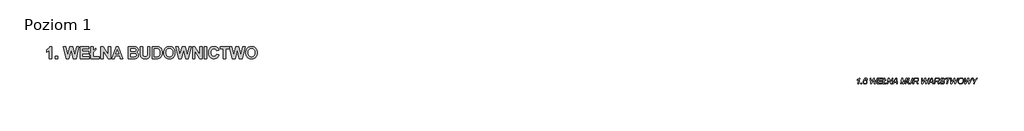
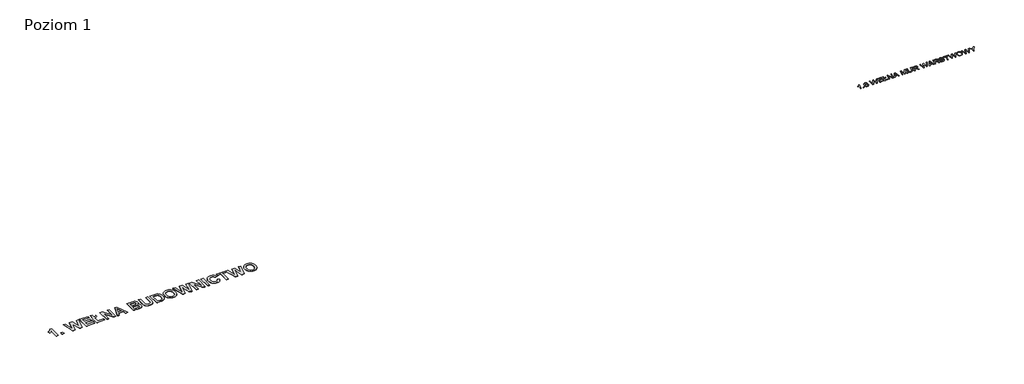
# One storey, incomplete: 2 proxies.
"""IFC4 building model written with IfcOpenShell, lengths in millimetres."""

import ifcopenshell
import ifcopenshell.guid

model = None  # the IFC model being written
_history = None  # IfcOwnerHistory: only IFC2X3 demands one
_inside = {}  # id of a spatial element -> (the spatial element, [elements in it])
_under = {}  # id of a project, library or spatial element -> (it, [spatial elements below it])
_declared = {}  # id of a project -> (the project, [libraries it declares])
_typed = {}  # id of a type object -> (the type object, [elements of that type])
_made_of = {}  # id of a material, layer set ... -> (it, [elements and type objects made of it])


def new_model(schema):
    """Start an empty IFC model of exactly this schema.

    Asked for "IFC4X3", IfcOpenShell would pick the latest addendum, in which some entities
    have other attributes; the version numbers below select the first issue.
    IFC2X3 requires an IfcOwnerHistory on every rooted entity: one is made here for all.
    """
    global model, _history
    if schema == "IFC4X3":
        model = ifcopenshell.file(schema_version=(4, 3, 0, 0))
    else:
        model = ifcopenshell.file(schema=schema)
    _inside.clear()
    _under.clear()
    _declared.clear()
    _typed.clear()
    _made_of.clear()
    _history = None
    if model.schema == "IFC2X3":
        org = make("IfcOrganization", Name="unknown")
        user = make(
            "IfcPersonAndOrganization",
            ThePerson=make("IfcPerson", FamilyName="unknown"),
            TheOrganization=org,
        )
        app = make(
            "IfcApplication",
            ApplicationDeveloper=org,
            Version="unknown",
            ApplicationFullName="unknown",
            ApplicationIdentifier="unknown",
        )
        _history = make(
            "IfcOwnerHistory",
            OwningUser=user,
            OwningApplication=app,
            ChangeAction="ADDED",
            CreationDate=0,
        )
    return model


def make(cls, **values):
    """One entity of the class cls with the attributes given. An attribute that is None is left unset."""
    return model.create_entity(
        cls, **{name: value for name, value in values.items() if value is not None}
    )


def rooted(cls, **values):
    """An entity with a GlobalId (a new one), such as an element, a storey or a relation."""
    return make(cls, GlobalId=ifcopenshell.guid.new(), OwnerHistory=_history, **values)


def si_unit(unit_type, name, prefix=None):
    """IfcSIUnit, for example si_unit("LENGTHUNIT", "METRE", prefix="MILLI")."""
    return make("IfcSIUnit", UnitType=unit_type, Prefix=prefix, Name=name)


def assignment(units):
    """IfcUnitAssignment: the units of a project."""
    return None if units is None else make("IfcUnitAssignment", Units=units)


def point(xyz):
    """IfcCartesianPoint."""
    return None if xyz is None else make("IfcCartesianPoint", Coordinates=xyz)


def direction(xyz):
    """IfcDirection."""
    return None if xyz is None else make("IfcDirection", DirectionRatios=xyz)


def frame(location, z_axis=None, x_axis=None):
    """IfcAxis2Placement3D, a coordinate frame: its origin and axes. An axis left out is left unset."""
    return make(
        "IfcAxis2Placement3D",
        Location=point(location),
        Axis=direction(z_axis),
        RefDirection=direction(x_axis),
    )


def origin():
    """The frame at (0, 0, 0) with its axes left unset."""
    return frame((0.0, 0.0, 0.0))


def origin_with_axes():
    """The frame at (0, 0, 0) with the z axis (0, 0, 1) and the x axis (1, 0, 0) written out."""
    return frame((0.0, 0.0, 0.0), z_axis=(0.0, 0.0, 1.0), x_axis=(1.0, 0.0, 0.0))


def place(relative_to, where):
    """IfcLocalPlacement: puts the frame where relative to a parent placement (None: the world)."""
    return make(
        "IfcLocalPlacement", PlacementRelTo=relative_to, RelativePlacement=where
    )


def context(
    kind, dimensions, precision=None, world=None, true_north=None, identifier=None
):
    """IfcGeometricRepresentationContext, for example the 3D "Model" context."""
    return make(
        "IfcGeometricRepresentationContext",
        ContextIdentifier=identifier,
        ContextType=kind,
        CoordinateSpaceDimension=dimensions,
        Precision=precision,
        WorldCoordinateSystem=world,
        TrueNorth=true_north,
    )


def project(units=None, contexts=None):
    """IfcProject with its units and contexts."""
    return rooted(
        "IfcProject",
        Name="project",
        RepresentationContexts=contexts,
        UnitsInContext=assignment(units),
    )


def spatial(cls, under=None, at=None, **own):
    """A site, building, storey or space (cls), placed at a placement, below another one or the project."""
    s = rooted(cls, ObjectPlacement=at, **own)
    if under is not None:
        _under.setdefault(under.id(), (under, []))[1].append(s)
    return s


def polyline(points):
    """IfcPolyline through the points."""
    return make("IfcPolyline", Points=[point(p) for p in points])


def outline(outer, holes=None, kind="AREA"):
    """IfcArbitraryClosedProfileDef: a profile drawn as a closed curve; with holes, ...WithVoids."""
    if holes is None:
        return make("IfcArbitraryClosedProfileDef", ProfileType=kind, OuterCurve=outer)
    return make(
        "IfcArbitraryProfileDefWithVoids",
        ProfileType=kind,
        OuterCurve=outer,
        InnerCurves=holes,
    )


def extrude(swept, where, along, depth):
    """IfcExtrudedAreaSolid: the profile swept, set in the frame where, extruded along a direction by depth."""
    return make(
        "IfcExtrudedAreaSolid",
        SweptArea=swept,
        Position=where,
        ExtrudedDirection=direction(along),
        Depth=depth,
    )


def shape(context_of_items, identifier, shape_type, items):
    """IfcShapeRepresentation: the items that make up one representation, for example the "Body"."""
    return make(
        "IfcShapeRepresentation",
        ContextOfItems=context_of_items,
        RepresentationIdentifier=identifier,
        RepresentationType=shape_type,
        Items=items,
    )


def made_of(thing, what):
    """Note that an element or type object is made of a material, layer set ...; save() writes the relation."""
    if what is not None:
        _made_of.setdefault(what.id(), (what, []))[1].append(thing)
    return thing


def element(
    cls,
    number,
    at=None,
    inside=None,
    cuts=None,
    type_object=None,
    material=None,
    context=None,
    identifier="Body",
    shape_type=None,
    held_by="IfcProductDefinitionShape",
    body=None,
    shapes=None,
    **own,
):
    """One element of the class cls, such as IfcWall. Its Tag is "e" and its number.

    at: its placement. inside: the storey or other place that contains it. cuts: it is an
    opening in that element (IfcRelVoidsElement). A single representation is given by context,
    identifier, shape_type and body (its items); several are given by shapes. held_by: the class
    of the entity that holds the representations. save() writes the other relations.
    """
    e = rooted(cls, Tag="e%d" % number, ObjectPlacement=at, **own)
    if body is not None:
        shapes = [shape(context, identifier, shape_type, body)]
    if shapes is not None:
        e.Representation = make(held_by, Representations=shapes)
    if inside is not None:
        _inside.setdefault(inside.id(), (inside, []))[1].append(e)
    if cuts is not None:
        rooted(
            "IfcRelVoidsElement", RelatingBuildingElement=cuts, RelatedOpeningElement=e
        )
    if type_object is not None:
        _typed.setdefault(type_object.id(), (type_object, []))[1].append(e)
    return made_of(e, material)


def aggregate(whole, parts):
    """IfcRelAggregates: a whole, such as a stair, and the parts it consists of."""
    return rooted("IfcRelAggregates", RelatingObject=whole, RelatedObjects=parts)


def save(model, path):
    """Write the relations noted so far, then the file.

    IfcRelAggregates (storeys below a building ...), IfcRelContainedInSpatialStructure (elements
    in a storey), IfcRelDefinesByType, IfcRelAssociatesMaterial and IfcRelDeclares: one each for
    every whole, place, type object, material and project.
    """
    for whole, parts in _under.values():
        aggregate(whole, parts)
    for where, things in _inside.values():
        rooted(
            "IfcRelContainedInSpatialStructure",
            RelatedElements=things,
            RelatingStructure=where,
        )
    for kind, things in _typed.values():
        rooted("IfcRelDefinesByType", RelatedObjects=things, RelatingType=kind)
    for what, things in _made_of.values():
        rooted("IfcRelAssociatesMaterial", RelatedObjects=things, RelatingMaterial=what)
    for by, libraries in _declared.values():
        rooted("IfcRelDeclares", RelatingContext=by, RelatedDefinitions=libraries)
    model.write(path)


model = new_model("IFC4")

# Units and contexts
model_context = context("Model", 3, world=origin())
ifc_project = project(units=[si_unit("LENGTHUNIT", "METRE", prefix="MILLI")], contexts=[model_context])

# Site, building, storey
site = spatial("IfcSite", under=ifc_project)
building = spatial("IfcBuilding", under=site)
storey = spatial("IfcBuildingStorey", under=building, Name="Poziom 1", Elevation=0.0)

# Proxies
placement = place(None, origin())
element("IfcBuildingElementProxy", 1, Name="400 mm Arial", ObjectType="400 mm Arial", at=placement, inside=storey, context=model_context, shape_type="SweptSolid", body=[
    extrude(outline(polyline([(38888.1068831, 15251.1796723), (38949.3190043, 15546.3368692), (38927.350787, 15531.4283702), (38901.3296577, 15518.0740851), (38837.1286634, 15496.0281571), (38846.1191937, 15538.8766419), (38881.8302496, 15555.5067319), (38917.0391748, 15576.5125321), (38969.9780952, 15617.0177404), (38990.7328301, 15642.937248), (39019.330368, 15642.937248), (38937.9373755, 15251.1796723), (38888.1068831, 15251.1796723)])), origin_with_axes(), (0.0, 0.0, 1.0), 5.0),
    extrude(outline(polyline([(39084.7508225, 15251.1796723), (39096.2280952, 15300.1493692), (39145.1977922, 15300.1493692), (39134.6769589, 15251.1796723), (39084.7508225, 15251.1796723)])), origin_with_axes(), (0.0, 0.0, 1.0), 5.0),
    extrude(outline(polyline([(39314.9657846, 15471.8302404), (39335.4814096, 15490.4808086), (39355.9013907, 15503.7753162), (39376.1779058, 15511.7376741), (39396.2631331, 15514.3917935), (39417.8129082, 15512.4759258), (39437.413938, 15506.7283228), (39455.0662226, 15497.1489845), (39470.7697619, 15483.7379109), (39483.6577827, 15467.0809211), (39492.8635119, 15447.7638342), (39498.3869494, 15425.7866502), (39500.2280952, 15401.1493692), (39497.4843097, 15368.8217177), (39489.2529532, 15338.8851647), (39475.5340256, 15311.3397101), (39456.327527, 15286.1853541), (39436.3738102, 15268.192338), (39414.3876596, 15255.3401836), (39390.3690753, 15247.628891), (39364.3180573, 15245.0584601), (39340.7119376, 15247.276204), (39319.150207, 15253.9294355), (39299.6328656, 15265.0181547), (39282.1599134, 15280.5423616), (39267.7655005, 15300.1673025), (39257.483777, 15323.5582234), (39251.314743, 15350.7151244), (39249.2583983, 15381.6380056), (39254.5427259, 15441.3676457), (39270.3957089, 15503.1058086), (39288.6637013, 15546.9944213), (39310.7574513, 15582.4424563), (39335.5172761, 15609.5216467), (39361.783493, 15628.3037253), (39390.5364522, 15639.2788673), (39422.7565043, 15642.937248), (39442.1931461, 15641.3531453), (39459.7587534, 15636.600837), (39475.4533261, 15628.6803233), (39489.2768642, 15617.5916041), (39500.775059, 15603.5498782), (39509.4936019, 15586.7703446), (39515.4324927, 15567.2530032), (39518.5917316, 15544.9978541), (39473.9260119, 15544.9978541), (39467.4102685, 15567.3187584), (39455.5145536, 15582.4424563), (39439.3387723, 15591.0862774), (39419.9828301, 15593.967551), (39397.8173471, 15589.8787726), (39375.5083983, 15577.6124374), (39354.7058414, 15557.3239668), (39337.0595346, 15529.1687821), (39323.5020062, 15498.7898758), (39314.9657846, 15471.8302404)]), holes=[polyline([(39298.2280952, 15364.5177404), (39303.3330905, 15337.0559743), (39318.6480763, 15314.3524942), (39340.395117, 15299.1092414), (39364.796277, 15294.0281571), (39383.3870678, 15297.1246296), (39403.0060308, 15306.4140473), (39421.6207325, 15322.0279204), (39437.1987392, 15344.0977594), (39447.7434835, 15369.3358039), (39451.2583983, 15394.4542935), (39446.3805573, 15423.4702736), (39431.7470346, 15446.0541988), (39410.2271483, 15460.5801221), (39384.6902164, 15465.4220965), (39369.0494435, 15463.6556725), (39353.9765564, 15458.3564005), (39325.5344399, 15437.1593124), (39313.5879141, 15422.0206701), (39305.0546814, 15404.8675274), (39299.9347418, 15385.6998841), (39298.2280952, 15364.5177404)])]), origin_with_axes(), (0.0, 0.0, 1.0), 5.0),
    extrude(outline(polyline([(39745.0765801, 15251.1796723), (39720.5917316, 15642.937248), (39769.5614286, 15642.937248), (39780.7517695, 15447.8236116), (39785.0557467, 15372.9344071), (39786.3947619, 15348.9277783), (39790.985671, 15318.5130056), (39836.4165422, 15418.0783465), (39951.1892695, 15642.937248), (40008.2887013, 15642.937248), (40025.6002543, 15413.2961495), (40035.8341558, 15318.5130056), (40051.328474, 15356.1010738), (40081.9345346, 15417.1219071), (40195.5595346, 15642.937248), (40250.0765801, 15642.937248), (40046.1637013, 15251.1796723), (39989.9250649, 15251.1796723), (39971.3701407, 15487.5158465), (39962.3796104, 15563.3614904), (39936.4601028, 15506.3577026), (39806.0017695, 15251.1796723), (39745.0765801, 15251.1796723)])), origin_with_axes(), (0.0, 0.0, 1.0), 5.0),
    extrude(outline(polyline([(40204.1674892, 15251.1796723), (40283.7432467, 15642.937248), (40559.1977922, 15642.937248), (40552.9809361, 15600.0887632), (40324.7744967, 15600.0887632), (40299.9070725, 15477.6645207), (40522.4705195, 15477.6645207), (40510.2280952, 15434.8160359), (40291.203474, 15434.8160359), (40262.6059361, 15294.0281571), (40508.1239286, 15294.0281571), (40498.9421104, 15251.1796723), (40204.1674892, 15251.1796723)])), origin_with_axes(), (0.0, 0.0, 1.0), 5.0),
    extrude(outline(polyline([(40598.3161634, 15413.7743692), (40546.955368, 15385.8463389), (40559.1977922, 15428.6948238), (40606.6371861, 15454.5186874), (40644.8947619, 15642.937248), (40694.6296104, 15642.937248), (40662.4932467, 15484.7421723), (40773.4402164, 15544.9978541), (40761.1977922, 15502.1493692), (40654.267868, 15444.093498), (40623.7574513, 15294.0281571), (40828.5311255, 15294.0281571), (40816.2887013, 15251.1796723), (40565.3190043, 15251.1796723), (40598.3161634, 15413.7743692)])), origin_with_axes(), (0.0, 0.0, 1.0), 5.0),
    extrude(outline(polyline([(40865.2583983, 15251.1796723), (40944.8341558, 15642.937248), (41012.1674892, 15642.937248), (41071.4667316, 15491.3416041), (41114.5065043, 15374.5603541), (41135.6438149, 15300.1493692), (41157.2593452, 15411.2876268), (41202.3076407, 15642.937248), (41251.9468452, 15642.937248), (41175.8142695, 15251.1796723), (41103.5074513, 15251.1796723), (41022.4970346, 15476.2298616), (40982.9960877, 15585.7421723), (40963.3890801, 15489.0461495), (40914.9932467, 15251.1796723), (40865.2583983, 15251.1796723)])), origin_with_axes(), (0.0, 0.0, 1.0), 5.0),
    extrude(outline(polyline([(41224.2101028, 15251.1796723), (41443.4260119, 15642.937248), (41505.4032846, 15642.937248), (41567.0936255, 15251.1796723), (41517.6457089, 15251.1796723), (41501.9601028, 15361.3614904), (41338.8871861, 15361.3614904), (41279.109724, 15251.1796723), (41224.2101028, 15251.1796723)]), holes=[polyline([(41364.2328301, 15404.2099753), (41495.9345346, 15404.2099753), (41482.1618073, 15502.1493692), (41468.1977922, 15600.0887632), (41425.0623755, 15520.5130056), (41364.2328301, 15404.2099753)])]), origin_with_axes(), (0.0, 0.0, 1.0), 5.0),
    extrude(outline(polyline([(41776.6494967, 15251.1796723), (41853.0690043, 15642.937248), (41936.5661634, 15642.937248), (41966.2157846, 15389.6720965), (41973.0065043, 15325.4950132), (42012.890027, 15403.5404677), (42145.3568831, 15642.937248), (42222.828474, 15642.937248), (42139.7138907, 15251.1796723), (42089.5008225, 15251.1796723), (42135.5055573, 15439.406945), (42150.6890327, 15511.4268313), (42176.3455195, 15593.967551), (42149.0391748, 15551.477731), (42125.6542316, 15507.9836495), (41983.4316937, 15251.1796723), (41933.2186255, 15251.1796723), (41903.8559361, 15502.3406571), (41893.1438149, 15593.967551), (41874.7801786, 15499.5669829), (41826.2887013, 15251.1796723), (41776.6494967, 15251.1796723)])), origin_with_axes(), (0.0, 0.0, 1.0), 5.0),
    extrude(outline(polyline([(42304.1258225, 15642.937248), (42353.765027, 15642.937248), (42304.2214664, 15401.7232329), (42298.1958983, 15357.248801), (42299.7710344, 15342.3761685), (42304.4964428, 15329.0338389), (42312.3721234, 15317.2218124), (42323.3980763, 15306.9400889), (42351.8401928, 15292.665231), (42386.7621861, 15287.906945), (42416.0292316, 15291.3262158), (42443.1921104, 15301.5840283), (42466.5770536, 15318.4771391), (42484.5102922, 15341.8023048), (42498.952527, 15376.2460785), (42511.8644589, 15426.4950132), (42561.2167316, 15642.937248), (42611.2385119, 15642.937248), (42558.8256331, 15412.8179298), (42545.0050839, 15360.4648285), (42527.454421, 15320.2824185), (42504.2846767, 15289.5687584), (42473.6068831, 15265.6219071), (42436.3774797, 15250.1993219), (42393.5529058, 15245.0584601), (42351.1826407, 15248.6929298), (42314.9335877, 15259.5963389), (42285.905652, 15276.8959365), (42265.1987392, 15299.7189715), (42252.788938, 15327.0372717), (42248.6523377, 15357.8226647), (42259.5557467, 15428.7904677), (42304.1258225, 15642.937248)])), origin_with_axes(), (0.0, 0.0, 1.0), 5.0),
    extrude(outline(polyline([(42615.9250649, 15251.1796723), (42695.5008225, 15642.937248), (42860.9648377, 15642.937248), (42904.0165659, 15640.8569923), (42935.2323566, 15634.6162253), (42957.8043263, 15622.6368219), (42974.9245914, 15603.3406571), (42985.7204011, 15577.3972385), (42989.3190043, 15545.4760738), (42987.3822145, 15522.0791751), (42981.5718452, 15500.7625321), (42971.8878964, 15481.5261448), (42958.330368, 15464.3700132), (42940.450929, 15449.6707352), (42917.8012486, 15437.804909), (42890.3813268, 15428.7725345), (42858.1911634, 15422.5736116), (42876.9134645, 15408.2509317), (42890.423171, 15394.1673616), (42909.5758698, 15358.946481), (42924.5680573, 15322.530051), (42958.6172998, 15251.1796723), (42905.1523377, 15251.1796723), (42870.9118073, 15322.9126268), (42855.7761539, 15359.3051457), (42838.6797998, 15390.437248), (42825.0864049, 15406.8282281), (42810.8952354, 15416.4045776), (42791.8979579, 15421.0313531), (42763.8862392, 15422.5736116), (42700.4743073, 15422.5736116), (42665.6599134, 15251.1796723), (42615.9250649, 15251.1796723)]), holes=[polyline([(42709.1779058, 15465.4220965), (42784.2583983, 15465.4220965), (42852.0699513, 15465.4220965), (42879.0295867, 15470.3955813), (42900.6092505, 15479.1948238), (42917.3828064, 15491.7600463), (42929.924118, 15508.0314715), (42937.74301, 15526.8374611), (42940.3493073, 15547.0063768), (42938.3646956, 15563.4690899), (42932.4108604, 15577.6602594), (42923.2290422, 15588.6234459), (42911.5604816, 15595.4022101), (42894.1293736, 15598.9171249), (42867.6599134, 15600.0887632), (42736.5320725, 15600.0887632), (42709.1779058, 15465.4220965)])]), origin_with_axes(), (0.0, 0.0, 1.0), 5.0),
    extrude(outline(polyline([(43221.9250649, 15251.1796723), (43197.4402164, 15642.937248), (43246.4099134, 15642.937248), (43257.6002543, 15447.8236116), (43261.9042316, 15372.9344071), (43263.2432467, 15348.9277783), (43267.8341558, 15318.5130056), (43313.265027, 15418.0783465), (43428.0377543, 15642.937248), (43485.1371861, 15642.937248), (43502.4487392, 15413.2961495), (43512.6826407, 15318.5130056), (43528.1769589, 15356.1010738), (43558.7830195, 15417.1219071), (43672.4080195, 15642.937248), (43726.9250649, 15642.937248), (43523.0121861, 15251.1796723), (43466.7735498, 15251.1796723), (43448.2186255, 15487.5158465), (43439.2280952, 15563.3614904), (43413.3085877, 15506.3577026), (43282.8502543, 15251.1796723), (43221.9250649, 15251.1796723)])), origin_with_axes(), (0.0, 0.0, 1.0), 5.0),
    extrude(outline(polyline([(43648.2101028, 15251.1796723), (43867.4260119, 15642.937248), (43929.4032846, 15642.937248), (43991.0936255, 15251.1796723), (43941.6457089, 15251.1796723), (43925.9601028, 15361.3614904), (43762.8871861, 15361.3614904), (43703.109724, 15251.1796723), (43648.2101028, 15251.1796723)]), holes=[polyline([(43788.2328301, 15404.2099753), (43919.9345346, 15404.2099753), (43906.1618073, 15502.1493692), (43892.1977922, 15600.0887632), (43849.0623755, 15520.5130056), (43788.2328301, 15404.2099753)])]), origin_with_axes(), (0.0, 0.0, 1.0), 5.0),
    extrude(outline(polyline([(44042.1674892, 15251.1796723), (44121.7432467, 15642.937248), (44287.2072619, 15642.937248), (44330.2589901, 15640.8569923), (44361.4747808, 15634.6162253), (44384.0467505, 15622.6368219), (44401.1670157, 15603.3406571), (44411.9628253, 15577.3972385), (44415.5614286, 15545.4760738), (44413.6246388, 15522.0791751), (44407.8142695, 15500.7625321), (44398.1303206, 15481.5261448), (44384.5727922, 15464.3700132), (44366.6933533, 15449.6707352), (44344.0436729, 15437.804909), (44316.623751, 15428.7725345), (44284.4335877, 15422.5736116), (44303.1558888, 15408.2509317), (44316.6655952, 15394.1673616), (44335.8182941, 15358.946481), (44350.8104816, 15322.530051), (44384.859724, 15251.1796723), (44331.3947619, 15251.1796723), (44297.1542316, 15322.9126268), (44282.0185782, 15359.3051457), (44264.922224, 15390.437248), (44251.3288291, 15406.8282281), (44237.1376596, 15416.4045776), (44218.1403822, 15421.0313531), (44190.1286634, 15422.5736116), (44126.7167316, 15422.5736116), (44091.9023377, 15251.1796723), (44042.1674892, 15251.1796723)]), holes=[polyline([(44135.4203301, 15465.4220965), (44210.5008225, 15465.4220965), (44278.3123755, 15465.4220965), (44305.2720109, 15470.3955813), (44326.8516748, 15479.1948238), (44343.6252306, 15491.7600463), (44356.1665422, 15508.0314715), (44363.9854342, 15526.8374611), (44366.5917316, 15547.0063768), (44364.6071198, 15563.4690899), (44358.6532846, 15577.6602594), (44349.4714664, 15588.6234459), (44337.8029058, 15595.4022101), (44320.3717979, 15598.9171249), (44293.9023377, 15600.0887632), (44162.7744967, 15600.0887632), (44135.4203301, 15465.4220965)])]), origin_with_axes(), (0.0, 0.0, 1.0), 5.0),
    extrude(outline(polyline([(44452.2887013, 15379.7251268), (44501.2583983, 15385.8463389), (44500.6845346, 15371.6910359), (44503.266921, 15349.2386211), (44511.0140801, 15328.7469071), (44524.7150744, 15311.4473096), (44545.1589664, 15298.5712442), (44571.1980289, 15290.5730198), (44601.6845346, 15287.906945), (44642.7277401, 15293.0717177), (44659.0977981, 15299.5276836), (44672.7001596, 15308.5660359), (44691.0279295, 15330.6836969), (44697.1371861, 15355.718498), (44693.9331142, 15373.3887158), (44684.3208983, 15389.4808086), (44660.0273377, 15407.0792935), (44613.1618073, 15430.0338389), (44551.5671104, 15460.6398995), (44529.1386066, 15478.7166041), (44513.5008225, 15498.3236116), (44504.3190043, 15520.1543408), (44501.2583983, 15544.9022101), (44505.2395772, 15573.499748), (44517.1831142, 15599.2279677), (44536.7901217, 15620.6402546), (44563.7617127, 15636.2899942), (44596.3882515, 15645.8663437), (44632.9601028, 15649.0584601), (44675.3542789, 15644.9577262), (44710.5273377, 15632.6555245), (44737.7619494, 15613.5147812), (44756.3407846, 15588.8984223), (44767.0289948, 15562.1659412), (44770.5917316, 15536.6768313), (44770.5917316, 15528.4514526), (44721.6220346, 15524.3387632), (44718.8483604, 15551.405998), (44712.284795, 15567.1752925), (44702.9236445, 15580.2426457), (44690.1551786, 15590.811301), (44673.3696672, 15599.0845018), (44653.4637723, 15604.4286069), (44631.3341558, 15606.2099753), (44594.9416369, 15601.3799563), (44580.1526928, 15595.3424327), (44567.6352922, 15586.8898995), (44554.5798945, 15569.7457234), (44550.2280952, 15547.7715283), (44552.0333746, 15534.094445), (44557.4492127, 15521.9476647), (44567.5755147, 15510.6616798), (44583.5121861, 15499.5669829), (44647.1154058, 15468.8652783), (44703.3540422, 15439.5982329), (44721.5503017, 15423.9604488), (44735.0121861, 15405.3577026), (44743.3332089, 15383.8856382), (44746.1068831, 15359.6398995), (44741.3964191, 15329.1892603), (44727.265027, 15301.1536306), (44704.8245678, 15277.3741562), (44675.186902, 15259.6919829), (44639.5475791, 15248.7168408), (44599.1021483, 15245.0584601), (44568.2181225, 15246.8876505), (44540.316992, 15252.3752215), (44515.3987569, 15261.5211732), (44493.4634172, 15274.3255056), (44475.5570784, 15291.888124), (44462.7258462, 15315.3089336), (44454.9697205, 15344.5879346), (44452.2887013, 15379.7251268)])), origin_with_axes(), (0.0, 0.0, 1.0), 5.0),
    extrude(outline(polyline([(44899.1371861, 15251.1796723), (44973.2612392, 15600.0887632), (44837.9250649, 15600.0887632), (44847.202527, 15642.937248), (45159.2887013, 15642.937248), (45150.0112392, 15600.0887632), (45023.0917316, 15600.0887632), (44948.9676786, 15251.1796723), (44899.1371861, 15251.1796723)])), origin_with_axes(), (0.0, 0.0, 1.0), 5.0),
    extrude(outline(polyline([(45186.8341558, 15251.1796723), (45162.3493073, 15642.937248), (45211.3190043, 15642.937248), (45222.5093452, 15447.8236116), (45226.8133225, 15372.9344071), (45228.1523377, 15348.9277783), (45232.7432467, 15318.5130056), (45278.174118, 15418.0783465), (45392.9468452, 15642.937248), (45450.046277, 15642.937248), (45467.3578301, 15413.2961495), (45477.5917316, 15318.5130056), (45493.0860498, 15356.1010738), (45523.6921104, 15417.1219071), (45637.3171104, 15642.937248), (45691.8341558, 15642.937248), (45487.921277, 15251.1796723), (45431.6826407, 15251.1796723), (45413.1277164, 15487.5158465), (45404.1371861, 15563.3614904), (45378.2176786, 15506.3577026), (45247.7593452, 15251.1796723), (45186.8341558, 15251.1796723)])), origin_with_axes(), (0.0, 0.0, 1.0), 5.0),
    extrude(outline(polyline([(45670.4099134, 15415.3046723), (45674.1370382, 15465.0783761), (45685.3184125, 15509.8606618), (45703.9540363, 15549.6515295), (45730.0439096, 15584.4509791), (45761.4479993, 15612.716752), (45796.0262723, 15632.9065899), (45833.7787285, 15645.0204926), (45874.705368, 15649.0584601), (45909.0953419, 15646.0845314), (45940.1497335, 15637.1627452), (45967.8685427, 15622.2931015), (45992.2517695, 15601.4756003), (46012.1277756, 15575.6607033), (46026.3249229, 15545.7988721), (46034.8432112, 15511.8901067), (46037.6826407, 15473.9344071), (46031.9679153, 15418.9869639), (46014.8237392, 15368.1522101), (45995.4677969, 15334.1866562), (45971.6405005, 15305.170676), (45944.6569541, 15281.6781334), (45915.8322619, 15264.2828919), (45875.1357657, 15249.8645681), (45832.048171, 15245.0584601), (45787.812849, 15250.6536306), (45747.6902164, 15267.4391419), (45714.2387486, 15294.2553115), (45690.016921, 15329.9424563), (45675.3116653, 15371.3443266), (45670.4099134, 15415.3046723)]), holes=[polyline([(45719.3796104, 15412.7222859), (45722.9543026, 15379.6175274), (45733.6783793, 15349.358176), (45751.492063, 15323.6538673), (45776.3355763, 15304.2142366), (45805.4232894, 15291.9837679), (45835.9695725, 15287.906945), (45865.4637723, 15291.4816372), (45893.499402, 15302.2057139), (45919.3591322, 15319.3140236), (45942.3256331, 15342.0414147), (45961.5739759, 15370.5074421), (45976.2792316, 15404.8316609), (45985.6045157, 15441.809999), (45988.7129437, 15478.2383844), (45986.6655656, 15505.9781157), (45980.5234314, 15530.7588626), (45970.286541, 15552.5806251), (45955.9548945, 15571.4434033), (45938.6164416, 15586.6537785), (45919.3591322, 15597.5183323), (45898.1829662, 15604.0370645), (45875.0879437, 15606.2099753), (45845.1992127, 15602.9281926), (45817.1277164, 15593.0828446), (45790.8734551, 15576.6739312), (45766.4364286, 15553.7014526), (45745.8490706, 15525.1995586), (45731.1438149, 15492.2023995), (45722.3206615, 15454.7099753), (45719.3796104, 15412.7222859)])]), origin_with_axes(), (0.0, 0.0, 1.0), 5.0),
    extrude(outline(polyline([(46129.5008225, 15251.1796723), (46105.015974, 15642.937248), (46153.985671, 15642.937248), (46165.1760119, 15447.8236116), (46169.4799892, 15372.9344071), (46170.8190043, 15348.9277783), (46175.4099134, 15318.5130056), (46220.8407846, 15418.0783465), (46335.6135119, 15642.937248), (46392.7129437, 15642.937248), (46410.0244967, 15413.2961495), (46420.2583983, 15318.5130056), (46435.7527164, 15356.1010738), (46466.358777, 15417.1219071), (46579.983777, 15642.937248), (46634.5008225, 15642.937248), (46430.5879437, 15251.1796723), (46374.3493073, 15251.1796723), (46355.7943831, 15487.5158465), (46346.8038528, 15563.3614904), (46320.8843452, 15506.3577026), (46190.4260119, 15251.1796723), (46129.5008225, 15251.1796723)])), origin_with_axes(), (0.0, 0.0, 1.0), 5.0),
    extrude(outline(polyline([(46717.1371861, 15251.1796723), (46747.5519589, 15401.1493692), (46629.2404058, 15642.937248), (46682.8010119, 15642.937248), (46740.1873755, 15529.8861116), (46776.9146483, 15450.6929298), (46800.0365706, 15486.702873), (46832.8663528, 15525.4864904), (46920.7631331, 15642.937248), (46979.9667316, 15642.937248), (46796.4260119, 15397.2279677), (46766.8720346, 15251.1796723), (46717.1371861, 15251.1796723)])), origin_with_axes(), (0.0, 0.0, 1.0), 5.0),
])
element("IfcBuildingElementProxy", 2, Name="800", ObjectType="800", at=placement, inside=storey, context=model_context, shape_type="SweptSolid", body=[
    extrude(outline(polyline([(-15688.5553841, 16963.7896585), (-15841.5553841, 16963.7896585), (-15841.5553841, 17537.938096), (-15883.9142708, 17497.5215921), (-15929.9088997, 17462.7330179), (-15979.5392708, 17433.5723734), (-16032.8053841, 17410.0396585), (-16032.8053841, 17563.0396585), (-16002.7856087, 17575.1235208), (-15971.4958138, 17591.6524515), (-15905.1061654, 17638.0455179), (-15873.3432259, 17666.8388529), (-15846.984095, 17697.9356546), (-15826.0287728, 17731.3359232), (-15810.4772591, 17767.0396585), (-15688.5553841, 17767.0396585), (-15688.5553841, 16963.7896585)])), origin_with_axes(), (0.0, 0.0, 1.0), 5.0),
    extrude(outline(polyline([(-15433.5553841, 16963.7896585), (-15433.5553841, 17116.7896585), (-15280.5553841, 17116.7896585), (-15280.5553841, 16963.7896585), (-15433.5553841, 16963.7896585)])), origin_with_axes(), (0.0, 0.0, 1.0), 5.0),
    extrude(outline(polyline([(-14695.8483529, 16963.7896585), (-14898.0553841, 17767.0396585), (-14741.0710091, 17767.0396585), (-14611.1803841, 17215.203721), (-14471.5280404, 17767.0396585), (-14265.7350716, 17767.0396585), (-14126.6803841, 17206.0396585), (-13996.7897591, 17767.0396585), (-13839.8053841, 17767.0396585), (-14039.0241341, 16963.7896585), (-14220.1139779, 16963.7896585), (-14368.9303841, 17564.234971), (-14520.7350716, 16963.7896585), (-14695.8483529, 16963.7896585)])), origin_with_axes(), (0.0, 0.0, 1.0), 5.0),
    extrude(outline(polyline([(-13763.3053841, 16963.7896585), (-13763.3053841, 17767.0396585), (-13164.0553841, 17767.0396585), (-13164.0553841, 17626.7896585), (-13610.3053841, 17626.7896585), (-13610.3053841, 17448.2896585), (-13189.5553841, 17448.2896585), (-13189.5553841, 17308.0396585), (-13610.3053841, 17308.0396585), (-13610.3053841, 17104.0396585), (-13151.3053841, 17104.0396585), (-13151.3053841, 16963.7896585), (-13763.3053841, 16963.7896585)])), origin_with_axes(), (0.0, 0.0, 1.0), 5.0),
    extrude(outline(polyline([(-13023.8053841, 17367.406846), (-13023.8053841, 17767.0396585), (-12870.8053841, 17767.0396585), (-12870.8053841, 17501.8795023), (-12692.3053841, 17658.6646585), (-12692.3053841, 17561.047471), (-12870.8053841, 17404.2623148), (-12870.8053841, 17104.0396585), (-12462.8053841, 17104.0396585), (-12462.8053841, 16963.7896585), (-13023.8053841, 16963.7896585), (-13023.8053841, 17269.7896585), (-13113.0553841, 17191.297471), (-13113.0553841, 17288.9146585), (-13023.8053841, 17367.406846)])), origin_with_axes(), (0.0, 0.0, 1.0), 5.0),
    extrude(outline(polyline([(-12348.0553841, 16963.7896585), (-12348.0553841, 17767.0396585), (-12187.6842904, 17767.0396585), (-11850.8053841, 17226.359971), (-11850.8053841, 17767.0396585), (-11697.8053841, 17767.0396585), (-11697.8053841, 16963.7896585), (-11863.1569466, 16963.7896585), (-12195.0553841, 17496.500596), (-12195.0553841, 16963.7896585), (-12348.0553841, 16963.7896585)])), origin_with_axes(), (0.0, 0.0, 1.0), 5.0),
    extrude(outline(polyline([(-10869.0553841, 16963.7896585), (-11029.8249154, 16963.7896585), (-11092.7780404, 17142.2896585), (-11396.1881966, 17142.2896585), (-11458.3444466, 16963.7896585), (-11621.3053841, 16963.7896585), (-11328.0553841, 17767.0396585), (-11165.0944466, 17767.0396585), (-10869.0553841, 16963.7896585)]), holes=[polyline([(-11141.7858529, 17282.5396585), (-11245.1803841, 17575.7896585), (-11347.1803841, 17282.5396585), (-11141.7858529, 17282.5396585)])]), origin_with_axes(), (0.0, 0.0, 1.0), 5.0),
    extrude(outline(polyline([(-10486.5553841, 17767.0396585), (-10156.8483529, 17767.0396585), (-10071.4582161, 17765.047471), (-10010.9206185, 17759.0709085), (-9965.3493294, 17746.7442484), (-9924.8581185, 17725.7017679), (-9890.0695443, 17696.1177835), (-9861.6061654, 17658.1666117), (-9850.5370736, 17636.4579935), (-9842.6305794, 17613.4669046), (-9837.8866829, 17589.1933451), (-9836.3053841, 17563.6373148), (-9838.1917366, 17535.9210062), (-9843.8507943, 17509.3502054), (-9853.282557, 17483.9249124), (-9866.4870247, 17459.6451273), (-9882.9287972, 17437.4197855), (-9902.072474, 17418.1578226), (-9923.918055, 17401.8592386), (-9948.4655404, 17388.5240335), (-9917.213099, 17375.9981546), (-9889.7956185, 17359.7369242), (-9866.213099, 17339.7403421), (-9846.4655404, 17316.0084085), (-9830.864222, 17289.2757425), (-9819.7204232, 17260.2769632), (-9813.0341439, 17229.0120707), (-9810.8053841, 17195.4810648), (-9812.4053597, 17168.3810892), (-9817.2052865, 17141.6670999), (-9836.4049935, 17089.3970804), (-9850.3752083, 17064.9429789), (-9866.6862435, 17043.078721), (-9885.338099, 17023.804307), (-9906.3307747, 17007.1197367), (-9929.782557, 16993.2055521), (-9955.8117318, 16982.2422953), (-9984.4182991, 16974.2299662), (-10015.6022591, 16969.1685648), (-10085.0299935, 16965.632432), (-10212.0319466, 16963.7896585), (-10486.5553841, 16963.7896585), (-10486.5553841, 17767.0396585)]), holes=[polyline([(-10333.5553841, 17626.7896585), (-10333.5553841, 17448.2896585), (-10216.8131966, 17448.2896585), (-10087.3210091, 17450.8795023), (-10046.5558724, 17460.1929789), (-10029.8152718, 17468.2488871), (-10015.5026497, 17478.5709085), (-10004.041346, 17490.9349222), (-9995.8547005, 17505.116807), (-9990.9427132, 17521.1165628), (-9989.3053841, 17538.9341898), (-9994.9582161, 17571.2823343), (-10002.0242562, 17584.9723978), (-10011.9167122, 17597.0064554), (-10024.5857796, 17607.1105814), (-10039.9816536, 17615.0108499), (-10078.9538216, 17624.1998148), (-10231.1569466, 17626.7896585), (-10333.5553841, 17626.7896585)]), polyline([(-10333.5553841, 17308.0396585), (-10333.5553841, 17104.0396585), (-10171.7897591, 17104.0396585), (-10094.4928841, 17105.234971), (-10051.8600716, 17108.8209085), (-10016.4489388, 17119.504014), (-9988.3092904, 17139.2017679), (-9977.5888314, 17152.3315287), (-9969.9313607, 17167.5157328), (-9965.3368782, 17184.7543802), (-9963.8053841, 17204.047471), (-9968.5368294, 17235.7232523), (-9982.7311654, 17262.219346), (-10005.8405404, 17282.8882914), (-10037.3171029, 17297.0826273), (-10093.8952279, 17305.3004007), (-10192.3092904, 17308.0396585), (-10333.5553841, 17308.0396585)])]), origin_with_axes(), (0.0, 0.0, 1.0), 5.0),
    extrude(outline(polyline([(-9683.3053841, 17767.0396585), (-9530.3053841, 17767.0396585), (-9530.3053841, 17333.7388773), (-9528.6618294, 17248.672471), (-9523.7311654, 17199.8638773), (-9516.098597, 17176.5615091), (-9504.5563607, 17155.6622171), (-9489.1044564, 17137.1660013), (-9469.7428841, 17121.0728617), (-9446.4716439, 17108.0427103), (-9419.2907357, 17098.7354593), (-9388.2001595, 17093.1511087), (-9353.1999154, 17091.2896585), (-9317.8697152, 17093.0452738), (-9287.1838021, 17098.3121195), (-9261.1421761, 17107.0901957), (-9239.7448372, 17119.3795023), (-9222.5684456, 17134.2275248), (-9209.1896615, 17150.6817484), (-9199.6084847, 17168.7421732), (-9193.8249154, 17188.4087992), (-9187.9977669, 17242.8702249), (-9186.0553841, 17324.375596), (-9186.0553841, 17767.0396585), (-9033.0553841, 17767.0396585), (-9033.0553841, 17345.6920023), (-9036.3922982, 17222.3257914), (-9046.4030404, 17141.4927835), (-9054.4838509, 17112.8613138), (-9065.3786263, 17086.5333109), (-9079.0873665, 17062.5087748), (-9095.6100716, 17040.7877054), (-9115.0525765, 17021.2704935), (-9137.5207161, 17003.8575296), (-9163.0144906, 16988.5488138), (-9191.5338997, 16975.344346), (-9223.8633675, 16964.7110453), (-9260.7873177, 16957.1158304), (-9302.3057503, 16952.5587015), (-9348.4186654, 16951.0396585), (-9403.2660775, 16952.6956644), (-9451.0661263, 16957.663682), (-9491.8188118, 16965.9437113), (-9525.5241341, 16977.5357523), (-9554.1244759, 16991.7798929), (-9579.56222, 17008.016221), (-9601.8373665, 17026.2447367), (-9620.9499154, 17046.4654398), (-9650.0358529, 17089.944932), (-9667.1686654, 17135.516221), (-9679.2712044, 17220.8814554), (-9683.3053841, 17339.1177835), (-9683.3053841, 17767.0396585)])), origin_with_axes(), (0.0, 0.0, 1.0), 5.0),
    extrude(outline(polyline([(-8880.0553841, 17767.0396585), (-8582.6217904, 17767.0396585), (-8493.9694466, 17763.2046976), (-8429.2233529, 17751.6998148), (-8395.0324349, 17739.2299662), (-8363.381556, 17722.738389), (-8334.2707161, 17702.2250833), (-8307.6999154, 17677.6900492), (-8283.9119515, 17649.6500101), (-8263.1496224, 17618.6216898), (-8245.4129281, 17584.6050882), (-8230.7018685, 17547.6002054), (-8219.1534066, 17506.8537455), (-8210.9045052, 17461.6124124), (-8205.9551644, 17411.8762064), (-8204.3053841, 17357.6451273), (-8205.8493294, 17309.8326273), (-8210.4811654, 17265.406846), (-8218.2008919, 17224.3677835), (-8229.0085091, 17186.7154398), (-8245.7677865, 17144.9791117), (-8265.7643685, 17107.4263773), (-8288.9982552, 17074.0572367), (-8315.4694466, 17044.8716898), (-8338.4543099, 17025.472764), (-8365.1745247, 17008.3150492), (-8395.6300911, 16993.3985453), (-8429.8210091, 16980.7232523), (-8492.7243294, 16968.023057), (-8573.8561654, 16963.7896585), (-8880.0553841, 16963.7896585), (-8880.0553841, 17767.0396585)]), holes=[polyline([(-8727.0553841, 17626.7896585), (-8727.0553841, 17104.0396585), (-8596.7663216, 17104.0396585), (-8533.8131966, 17105.9322367), (-8491.1803841, 17111.609971), (-8452.3576302, 17124.5840921), (-8420.756556, 17144.3814554), (-8407.4026741, 17157.8473978), (-8395.331263, 17175.0362406), (-8375.0358529, 17220.5826273), (-8361.7380013, 17283.2369242), (-8357.3053841, 17365.2154398), (-8361.7380013, 17446.0484476), (-8367.2787728, 17478.5086527), (-8375.0358529, 17505.6646585), (-8396.2775521, 17549.2935648), (-8424.5417122, 17582.1646585), (-8460.6252083, 17605.1744242), (-8505.3249154, 17619.219346), (-8559.4626107, 17624.8970804), (-8648.5631966, 17626.7896585), (-8727.0553841, 17626.7896585)])]), origin_with_axes(), (0.0, 0.0, 1.0), 5.0),
    extrude(outline(polyline([(-8102.3053841, 17360.4341898), (-8100.051722, 17419.2286234), (-8093.2907357, 17473.0923929), (-8082.0224251, 17522.0254984), (-8066.2467904, 17566.0279398), (-8034.4464974, 17624.0753031), (-7992.834681, 17675.8970804), (-7944.1007943, 17718.3057718), (-7918.0716195, 17734.7848978), (-7890.9342904, 17748.1138773), (-7852.659388, 17761.9720316), (-7811.5456185, 17771.8707132), (-7767.5929818, 17777.8099222), (-7720.8014779, 17779.7896585), (-7678.3118538, 17778.0729532), (-7638.0011849, 17772.9228373), (-7599.869471, 17764.3393106), (-7563.9167122, 17752.3223734), (-7530.1429085, 17736.8720255), (-7498.5480599, 17717.9882669), (-7469.1321663, 17695.6710978), (-7441.8952279, 17669.9205179), (-7417.3819832, 17641.1131754), (-7396.1371712, 17609.6257181), (-7378.1607918, 17575.4581461), (-7363.452845, 17538.6104593), (-7352.0133309, 17499.0826578), (-7343.8422493, 17456.8747416), (-7338.9396004, 17411.9867105), (-7337.3053841, 17364.4185648), (-7338.9271492, 17317.1819315), (-7343.7924447, 17272.5911722), (-7351.9012703, 17230.646287), (-7363.2536263, 17191.3472757), (-7377.8495125, 17154.6941385), (-7395.688929, 17120.6868753), (-7416.7718758, 17089.3254862), (-7441.0983529, 17060.609971), (-7468.1422982, 17034.9294291), (-7497.3776497, 17012.6729593), (-7528.8044075, 16993.8405619), (-7562.4225716, 16978.4322367), (-7598.2321419, 16966.4479837), (-7636.2331185, 16957.8878031), (-7676.4255013, 16952.7516947), (-7718.8092904, 16951.0396585), (-7761.6599984, 16952.7439127), (-7802.2570443, 16957.8566751), (-7840.6004281, 16966.3779459), (-7876.6901497, 16978.3077249), (-7910.5262093, 16993.6460123), (-7942.1086068, 17012.392808), (-7971.4373421, 17034.5481119), (-7998.5124154, 17060.1119242), (-8022.8388924, 17088.6640177), (-8043.9218392, 17119.7841654), (-8061.7612557, 17153.4723673), (-8076.3571419, 17189.7286234), (-8087.7094979, 17228.5529337), (-8095.8183236, 17269.9452982), (-8100.683619, 17313.9057169), (-8102.3053841, 17360.4341898)]), holes=[polyline([(-7949.3053841, 17366.0123148), (-7945.2400765, 17302.4739847), (-7933.0441536, 17247.1285257), (-7912.7176156, 17199.9759378), (-7884.2604622, 17161.016221), (-7849.5403695, 17130.5108499), (-7810.425013, 17108.7212992), (-7766.9143929, 17095.6475687), (-7719.0085091, 17091.2896585), (-7671.15243, 17095.6164408), (-7627.791224, 17108.5967874), (-7588.9248909, 17130.2306986), (-7554.553431, 17160.5181742), (-7526.4449105, 17199.4592142), (-7506.3673958, 17247.0538187), (-7494.320887, 17303.3019876), (-7490.3053841, 17368.203721), (-7494.2150521, 17432.2027445), (-7505.944056, 17487.5357523), (-7525.4923958, 17534.2027445), (-7552.8600716, 17572.203721), (-7586.7023568, 17601.6631937), (-7625.6745247, 17622.7056742), (-7669.7765755, 17635.3311624), (-7719.0085091, 17639.5396585), (-7768.2902474, 17635.2813578), (-7812.5417122, 17622.5064554), (-7851.7629036, 17601.2149515), (-7885.9538216, 17571.406846), (-7913.6701302, 17533.0198832), (-7933.4674935, 17485.991807), (-7945.3459115, 17430.3226175), (-7949.3053841, 17366.0123148)])]), origin_with_axes(), (0.0, 0.0, 1.0), 5.0),
    extrude(outline(polyline([(-7084.0983529, 16963.7896585), (-7286.3053841, 17767.0396585), (-7129.3210091, 17767.0396585), (-6999.4303841, 17215.203721), (-6859.7780404, 17767.0396585), (-6653.9850716, 17767.0396585), (-6514.9303841, 17206.0396585), (-6385.0397591, 17767.0396585), (-6228.0553841, 17767.0396585), (-6427.2741341, 16963.7896585), (-6608.3639779, 16963.7896585), (-6757.1803841, 17564.234971), (-6908.9850716, 16963.7896585), (-7084.0983529, 16963.7896585)])), origin_with_axes(), (0.0, 0.0, 1.0), 5.0),
    extrude(outline(polyline([(-6151.5553841, 16963.7896585), (-6151.5553841, 17767.0396585), (-5991.1842904, 17767.0396585), (-5654.3053841, 17226.359971), (-5654.3053841, 17767.0396585), (-5501.3053841, 17767.0396585), (-5501.3053841, 16963.7896585), (-5666.6569466, 16963.7896585), (-5998.5553841, 17496.500596), (-5998.5553841, 16963.7896585), (-6151.5553841, 16963.7896585)])), origin_with_axes(), (0.0, 0.0, 1.0), 5.0),
    extrude(outline(polyline([(-5348.3053841, 16963.7896585), (-5348.3053841, 17767.0396585), (-5195.3053841, 17767.0396585), (-5195.3053841, 16963.7896585), (-5348.3053841, 16963.7896585)])), origin_with_axes(), (0.0, 0.0, 1.0), 5.0),
    extrude(outline(polyline([(-4519.5553841, 17269.7896585), (-4366.5553841, 17218.7896585), (-4387.6850228, 17158.29564), (-4414.8161263, 17106.1065531), (-4447.9486947, 17062.2223978), (-4487.0827279, 17026.6431742), (-4532.0563607, 16999.1447611), (-4582.7077279, 16979.5030374), (-4639.0368294, 16967.7180033), (-4701.0436654, 16963.7896585), (-4740.2430672, 16965.467454), (-4777.6557259, 16970.5008402), (-4813.2816414, 16978.8898172), (-4847.1208138, 16990.6343851), (-4879.173243, 17005.7345438), (-4909.438929, 17024.1902933), (-4937.9178719, 17046.0016336), (-4964.6100716, 17071.1685648), (-4988.796473, 17099.2459574), (-5009.7580208, 17129.788682), (-5027.4947152, 17162.7967386), (-5042.006556, 17198.2701273), (-5053.2935433, 17236.208848), (-5061.3556771, 17276.6129007), (-5066.1929574, 17319.4822855), (-5067.8053841, 17364.8170023), (-5066.1789498, 17412.6979837), (-5061.2996468, 17457.8272562), (-5053.1674752, 17500.2048197), (-5041.7824349, 17539.8306742), (-5027.144526, 17576.7048197), (-5009.2537484, 17610.8272562), (-4988.1101021, 17642.1979837), (-4963.7135872, 17670.8170023), (-4936.6649727, 17696.3574686), (-4907.5650277, 17718.4925394), (-4876.413752, 17737.2222147), (-4843.2111458, 17752.5464945), (-4807.9572091, 17764.4653788), (-4770.6519417, 17772.9788675), (-4731.2953438, 17778.0869608), (-4689.8874154, 17779.7896585), (-4619.2643685, 17774.17418), (-4555.6139779, 17757.3277445), (-4526.4035286, 17744.6929178), (-4498.9362435, 17729.2503519), (-4473.2121224, 17711.0000467), (-4449.2311654, 17689.9420023), (-4423.3700814, 17660.5447855), (-4400.9704232, 17625.3453226), (-4382.0321907, 17584.3436136), (-4366.5553841, 17537.5396585), (-4519.5553841, 17512.0396585), (-4529.1988167, 17540.0610208), (-4542.9884896, 17564.957139), (-4560.9244027, 17586.728013), (-4583.006556, 17605.3736429), (-4608.4629769, 17620.3212748), (-4636.5216927, 17630.9981546), (-4667.1827034, 17637.4042826), (-4700.4460091, 17639.5396585), (-4745.9114632, 17635.6611185), (-4786.8820443, 17624.0254984), (-4823.3577523, 17604.6327982), (-4855.3385872, 17577.4830179), (-4881.3553109, 17541.6547708), (-4899.9386849, 17496.2266703), (-4911.0887093, 17441.1987162), (-4914.8053841, 17376.5709085), (-4911.2007699, 17308.1641703), (-4900.3869271, 17250.3658304), (-4882.3638558, 17203.175889), (-4857.131556, 17166.594346), (-4826.1219124, 17139.2266703), (-4790.7668099, 17119.6783304), (-4751.0662484, 17107.9493265), (-4707.0202279, 17104.0396585), (-4674.2300667, 17106.5361185), (-4643.7931771, 17114.0254984), (-4615.7095589, 17126.5077982), (-4589.9792122, 17143.9830179), (-4567.1624398, 17166.8246927), (-4547.8195443, 17195.4063578), (-4531.9505257, 17229.728013), (-4519.5553841, 17269.7896585)])), origin_with_axes(), (0.0, 0.0, 1.0), 5.0),
    extrude(outline(polyline([(-4060.5553841, 16963.7896585), (-4060.5553841, 17626.7896585), (-4290.0553841, 17626.7896585), (-4290.0553841, 17767.0396585), (-3678.0553841, 17767.0396585), (-3678.0553841, 17626.7896585), (-3907.5553841, 17626.7896585), (-3907.5553841, 16963.7896585), (-4060.5553841, 16963.7896585)])), origin_with_axes(), (0.0, 0.0, 1.0), 5.0),
    extrude(outline(polyline([(-3450.3483529, 16963.7896585), (-3652.5553841, 17767.0396585), (-3495.5710091, 17767.0396585), (-3365.6803841, 17215.203721), (-3226.0280404, 17767.0396585), (-3020.2350716, 17767.0396585), (-2881.1803841, 17206.0396585), (-2751.2897591, 17767.0396585), (-2594.3053841, 17767.0396585), (-2793.5241341, 16963.7896585), (-2974.6139779, 16963.7896585), (-3123.4303841, 17564.234971), (-3275.2350716, 16963.7896585), (-3450.3483529, 16963.7896585)])), origin_with_axes(), (0.0, 0.0, 1.0), 5.0),
    extrude(outline(polyline([(-2543.3053841, 17360.4341898), (-2541.051722, 17419.2286234), (-2534.2907357, 17473.0923929), (-2523.0224251, 17522.0254984), (-2507.2467904, 17566.0279398), (-2475.4464974, 17624.0753031), (-2433.834681, 17675.8970804), (-2385.1007943, 17718.3057718), (-2359.0716195, 17734.7848978), (-2331.9342904, 17748.1138773), (-2293.659388, 17761.9720316), (-2252.5456185, 17771.8707132), (-2208.5929818, 17777.8099222), (-2161.8014779, 17779.7896585), (-2119.3118538, 17778.0729532), (-2079.0011849, 17772.9228373), (-2040.869471, 17764.3393106), (-2004.9167122, 17752.3223734), (-1971.1429085, 17736.8720255), (-1939.5480599, 17717.9882669), (-1910.1321663, 17695.6710978), (-1882.8952279, 17669.9205179), (-1858.3819832, 17641.1131754), (-1837.1371712, 17609.6257181), (-1819.1607918, 17575.4581461), (-1804.452845, 17538.6104593), (-1793.0133309, 17499.0826578), (-1784.8422493, 17456.8747416), (-1779.9396004, 17411.9867105), (-1778.3053841, 17364.4185648), (-1779.9271492, 17317.1819315), (-1784.7924447, 17272.5911722), (-1792.9012703, 17230.646287), (-1804.2536263, 17191.3472757), (-1818.8495125, 17154.6941385), (-1836.688929, 17120.6868753), (-1857.7718758, 17089.3254862), (-1882.0983529, 17060.609971), (-1909.1422982, 17034.9294291), (-1938.3776497, 17012.6729593), (-1969.8044075, 16993.8405619), (-2003.4225716, 16978.4322367), (-2039.2321419, 16966.4479837), (-2077.2331185, 16957.8878031), (-2117.4255013, 16952.7516947), (-2159.8092904, 16951.0396585), (-2202.6599984, 16952.7439127), (-2243.2570443, 16957.8566751), (-2281.6004281, 16966.3779459), (-2317.6901497, 16978.3077249), (-2351.5262093, 16993.6460123), (-2383.1086068, 17012.392808), (-2412.4373421, 17034.5481119), (-2439.5124154, 17060.1119242), (-2463.8388924, 17088.6640177), (-2484.9218392, 17119.7841654), (-2502.7612557, 17153.4723673), (-2517.3571419, 17189.7286234), (-2528.7094979, 17228.5529337), (-2536.8183236, 17269.9452982), (-2541.683619, 17313.9057169), (-2543.3053841, 17360.4341898)]), holes=[polyline([(-2390.3053841, 17366.0123148), (-2386.2400765, 17302.4739847), (-2374.0441536, 17247.1285257), (-2353.7176156, 17199.9759378), (-2325.2604622, 17161.016221), (-2290.5403695, 17130.5108499), (-2251.425013, 17108.7212992), (-2207.9143929, 17095.6475687), (-2160.0085091, 17091.2896585), (-2112.15243, 17095.6164408), (-2068.791224, 17108.5967874), (-2029.9248909, 17130.2306986), (-1995.553431, 17160.5181742), (-1967.4449105, 17199.4592142), (-1947.3673958, 17247.0538187), (-1935.320887, 17303.3019876), (-1931.3053841, 17368.203721), (-1935.2150521, 17432.2027445), (-1946.944056, 17487.5357523), (-1966.4923958, 17534.2027445), (-1993.8600716, 17572.203721), (-2027.7023568, 17601.6631937), (-2066.6745247, 17622.7056742), (-2110.7765755, 17635.3311624), (-2160.0085091, 17639.5396585), (-2209.2902474, 17635.2813578), (-2253.5417122, 17622.5064554), (-2292.7629036, 17601.2149515), (-2326.9538216, 17571.406846), (-2354.6701302, 17533.0198832), (-2374.4674935, 17485.991807), (-2386.3459115, 17430.3226175), (-2390.3053841, 17366.0123148)])]), origin_with_axes(), (0.0, 0.0, 1.0), 5.0),
])

save(model, "model.ifc")
